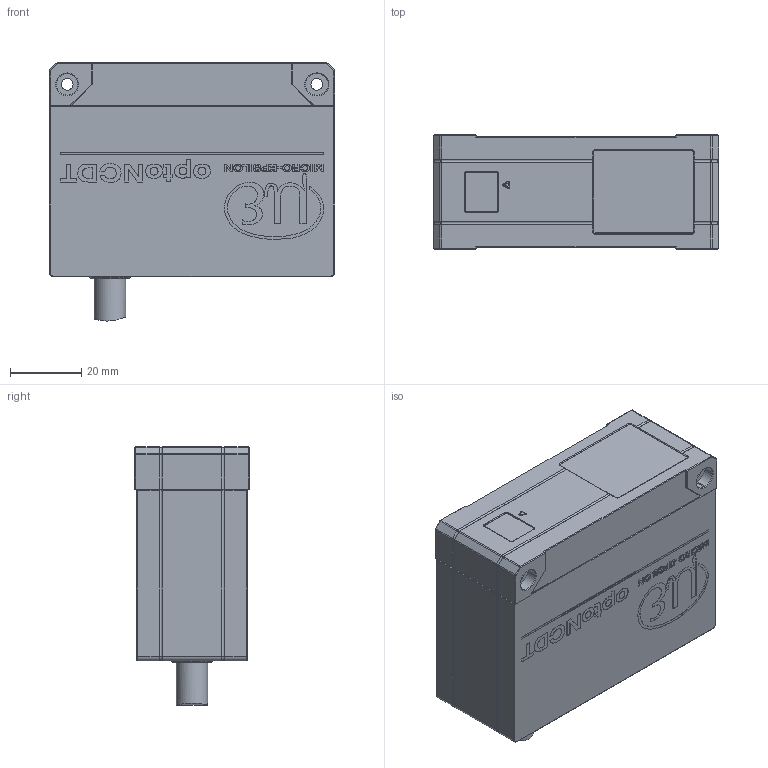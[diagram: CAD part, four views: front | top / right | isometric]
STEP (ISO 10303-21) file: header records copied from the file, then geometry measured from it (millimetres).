
FILE_DESCRIPTION (( 'STEP AP214' ), '1' );
FILE_NAME ('ILD5500-200_Sensormodell.STEP', '2024-11-27T08:16:45', ( '' ), ( '' ), 'SwSTEP 2.0', 'SolidWorks 2022', '' );
FILE_SCHEMA (( 'AUTOMOTIVE_DESIGN' ));
Length unit declared in the file: millimetre
Products named in the file (1): ILD5500-200_Sensormodell
Bounding box: 80 x 32 x 72.35 mm (x, y, z)
Volume: 147802.8 mm3; surface area: 22742.9 mm2
Topology: 3 solids, 6 shells, 1659 faces, 4397 edges, 2868 vertices
Faces by surface type: plane 805, bspline 673, cylinder 111, cone 56, torus 14
Full cylindrical faces by diameter (mm): 0.7 x1, 2.4 x2, 3.3 x2, 3.5 x1, 4 x1, 6 x2, 8.8 x1, 10 x2, 10.5 x2
Entity records: 80062 total; most frequent: CARTESIAN_POINT 25472, ORIENTED_EDGE 8682, DIRECTION 5202, EDGE_CURVE 4341, VERTEX_POINT 2849, VECTOR 2706, LINE 2706, EDGE_LOOP 1818
